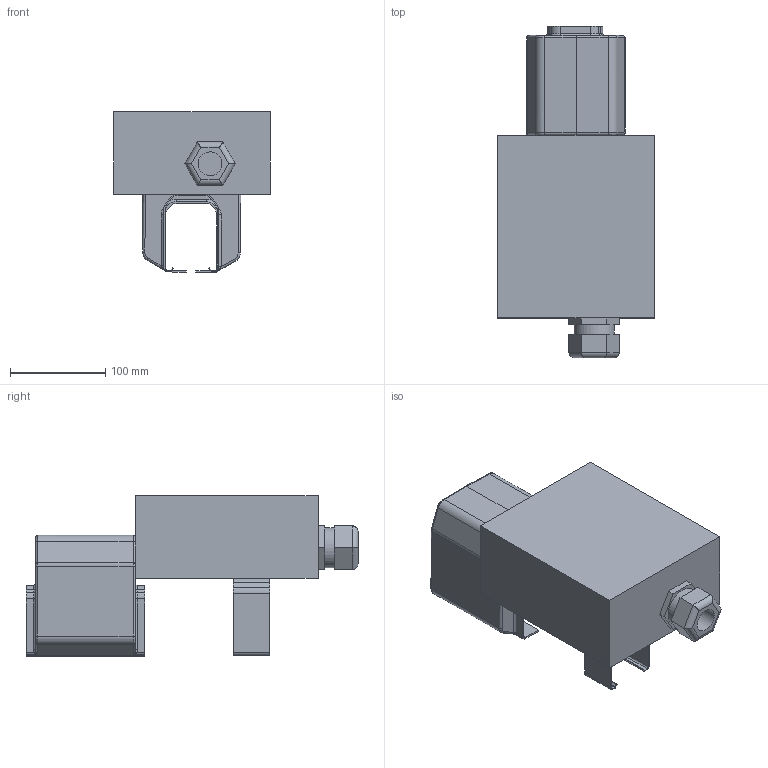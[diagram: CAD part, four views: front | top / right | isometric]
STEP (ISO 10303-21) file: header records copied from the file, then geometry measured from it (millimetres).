
FILE_DESCRIPTION(/* description */ ('Unknown'),/* implementation_level */ '2;1');
FILE_NAME(/* name */ 'MI1332_Boîte en cours M40_SPL',/* time_stamp */ '2018-08-14T16:52:12+02:00',/* author */ ('Unknown'),/* organization */ ('Unknown'),/* preprocessor_version */ 'ST-DEVELOPER v16.7',/* originating_system */ 'DEX',/* authorisation */ $);
FILE_SCHEMA (('AUTOMOTIVE_DESIGN {1 0 10303 214 3 1 1}'));
Length unit declared in the file: millimetre
Products named in the file (1): MI1332_Boîte en cours M40_SPL
Bounding box: 164 x 349 x 169.16 mm (x, y, z)
Volume: 3705105.8 mm3; surface area: 235157.3 mm2
Topology: 1 solids, 1 shells, 191 faces, 493 edges, 306 vertices
Faces by surface type: plane 84, cylinder 75, bspline 16, torus 16
Full cylindrical faces by diameter (mm): 8 x1, 25 x1, 42 x1
Entity records: 7700 total; most frequent: CARTESIAN_POINT 1696, DIRECTION 978, ORIENTED_EDGE 968, EDGE_CURVE 484, AXIS2_PLACEMENT_3D 338, VERTEX_POINT 304, LINE 302, VECTOR 302
